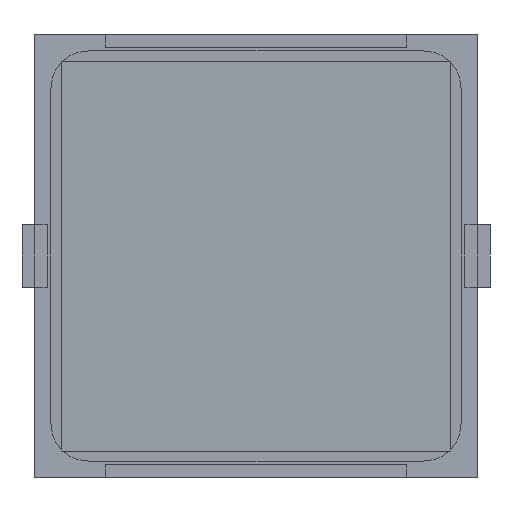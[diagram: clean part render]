
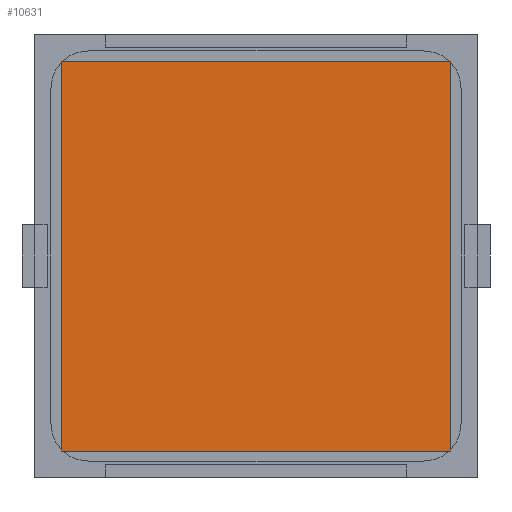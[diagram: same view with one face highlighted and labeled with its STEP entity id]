
A CAD part, front view. The second image highlights one B-rep face of the part: STEP entity #10631.
In plain terms, the highlighted planar face has unit normal (0, -1, 0).
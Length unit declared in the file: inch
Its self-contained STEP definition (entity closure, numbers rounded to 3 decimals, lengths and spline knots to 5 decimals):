
#58 = EDGE_CURVE ( 'NONE', #2422, #10533, #9098, .T. ) ;
#107 = EDGE_CURVE ( 'NONE', #10533, #5597, #12866, .T. ) ;
#323 = DIRECTION ( 'NONE',  ( 1., 0., 0. ) ) ;
#710 = LINE ( 'NONE', #10310, #10138 ) ;
#969 = VECTOR ( 'NONE', #7413, 39.37008 ) ;
#1277 = DIRECTION ( 'NONE',  ( 0., 1., 0. ) ) ;
#1681 = DIRECTION ( 'NONE',  ( -1., 0., 0. ) ) ;
#1844 = VECTOR ( 'NONE', #1681, 39.37008 ) ;
#1992 = ORIENTED_EDGE ( 'NONE', *, *, #2452, .F. ) ;
#2107 = ORIENTED_EDGE ( 'NONE', *, *, #7265, .F. ) ;
#2121 = CARTESIAN_POINT ( 'NONE',  ( -0.61024, -0.005, 0.61024 ) ) ;
#2422 = VERTEX_POINT ( 'NONE', #5018 ) ;
#2452 = EDGE_CURVE ( 'NONE', #8057, #2422, #710, .T. ) ;
#2684 = ORIENTED_EDGE ( 'NONE', *, *, #58, .F. ) ;
#2715 = DIRECTION ( 'NONE',  ( 0., 0., -1. ) ) ;
#2997 = CARTESIAN_POINT ( 'NONE',  ( -0.61024, -0.005, 0.61024 ) ) ;
#3339 = CARTESIAN_POINT ( 'NONE',  ( -0.61024, -0.005, -0.61024 ) ) ;
#4050 = LINE ( 'NONE', #2997, #9005 ) ;
#5018 = CARTESIAN_POINT ( 'NONE',  ( 0.61024, -0.005, -0.61024 ) ) ;
#5597 = VERTEX_POINT ( 'NONE', #6134 ) ;
#5922 = CARTESIAN_POINT ( 'NONE',  ( -0.61024, -0.005, -0.61024 ) ) ;
#6134 = CARTESIAN_POINT ( 'NONE',  ( -0.61024, -0.005, 0.61024 ) ) ;
#6403 = DIRECTION ( 'NONE',  ( 0., 0., 1. ) ) ;
#7265 = EDGE_CURVE ( 'NONE', #5597, #8057, #4050, .T. ) ;
#7413 = DIRECTION ( 'NONE',  ( 0., 0., 1. ) ) ;
#7454 = PLANE ( 'NONE',  #7624 ) ;
#7624 = AXIS2_PLACEMENT_3D ( 'NONE', #2121, #1277, #6403 ) ;
#8057 = VERTEX_POINT ( 'NONE', #10179 ) ;
#9005 = VECTOR ( 'NONE', #323, 39.37008 ) ;
#9098 = LINE ( 'NONE', #13518, #1844 ) ;
#9468 = ORIENTED_EDGE ( 'NONE', *, *, #107, .F. ) ;
#10138 = VECTOR ( 'NONE', #2715, 39.37008 ) ;
#10179 = CARTESIAN_POINT ( 'NONE',  ( 0.61024, -0.005, 0.61024 ) ) ;
#10310 = CARTESIAN_POINT ( 'NONE',  ( 0.61024, -0.005, -0.61024 ) ) ;
#10533 = VERTEX_POINT ( 'NONE', #5922 ) ;
#10631 = ADVANCED_FACE ( 'NONE', ( #12950 ), #7454, .F. ) ;
#11751 = EDGE_LOOP ( 'NONE', ( #9468, #2684, #1992, #2107 ) ) ;
#12866 = LINE ( 'NONE', #3339, #969 ) ;
#12950 = FACE_OUTER_BOUND ( 'NONE', #11751, .T. ) ;
#13518 = CARTESIAN_POINT ( 'NONE',  ( -0.61024, -0.005, -0.61024 ) ) ;
